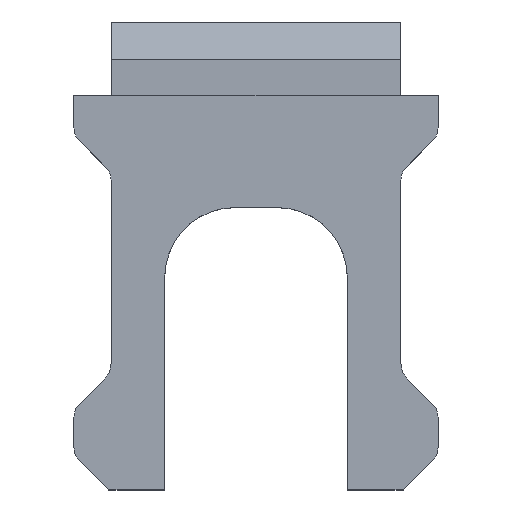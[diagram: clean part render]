
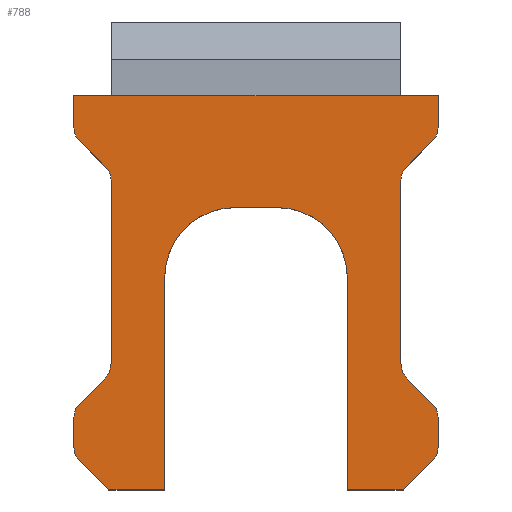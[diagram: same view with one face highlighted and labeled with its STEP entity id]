
A CAD part, top view. The second image highlights one B-rep face of the part: STEP entity #788.
In plain terms, the highlighted planar face has unit normal (0, 0, 1).
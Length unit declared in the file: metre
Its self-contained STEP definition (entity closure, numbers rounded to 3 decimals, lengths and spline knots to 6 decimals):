
#34=CIRCLE('',#824,0.0019);
#35=CIRCLE('',#827,0.0019);
#36=CIRCLE('',#832,0.0005);
#37=CIRCLE('',#835,0.0005);
#38=CIRCLE('',#838,0.0006);
#39=CIRCLE('',#841,0.0005);
#41=CIRCLE('',#845,0.0005);
#43=CIRCLE('',#851,0.0005);
#44=CIRCLE('',#854,0.0005);
#45=CIRCLE('',#857,0.0006);
#46=CIRCLE('',#860,0.0005);
#47=CIRCLE('',#863,0.0005);
#226=ORIENTED_EDGE('',*,*,#304,.T.);
#227=ORIENTED_EDGE('',*,*,#385,.F.);
#228=ORIENTED_EDGE('',*,*,#383,.T.);
#229=ORIENTED_EDGE('',*,*,#381,.F.);
#230=ORIENTED_EDGE('',*,*,#379,.T.);
#231=ORIENTED_EDGE('',*,*,#377,.F.);
#232=ORIENTED_EDGE('',*,*,#375,.T.);
#233=ORIENTED_EDGE('',*,*,#368,.T.);
#234=ORIENTED_EDGE('',*,*,#366,.T.);
#235=ORIENTED_EDGE('',*,*,#364,.F.);
#236=ORIENTED_EDGE('',*,*,#362,.T.);
#237=ORIENTED_EDGE('',*,*,#359,.T.);
#238=ORIENTED_EDGE('',*,*,#354,.F.);
#239=ORIENTED_EDGE('',*,*,#351,.F.);
#240=ORIENTED_EDGE('',*,*,#348,.F.);
#241=ORIENTED_EDGE('',*,*,#345,.T.);
#242=ORIENTED_EDGE('',*,*,#338,.F.);
#243=ORIENTED_EDGE('',*,*,#334,.T.);
#244=ORIENTED_EDGE('',*,*,#332,.F.);
#245=ORIENTED_EDGE('',*,*,#330,.F.);
#246=ORIENTED_EDGE('',*,*,#328,.F.);
#247=ORIENTED_EDGE('',*,*,#326,.F.);
#248=ORIENTED_EDGE('',*,*,#324,.F.);
#249=ORIENTED_EDGE('',*,*,#322,.T.);
#250=ORIENTED_EDGE('',*,*,#320,.T.);
#251=ORIENTED_EDGE('',*,*,#318,.T.);
#252=ORIENTED_EDGE('',*,*,#316,.F.);
#253=ORIENTED_EDGE('',*,*,#311,.T.);
#254=ORIENTED_EDGE('',*,*,#309,.F.);
#255=ORIENTED_EDGE('',*,*,#307,.F.);
#304=EDGE_CURVE('',#418,#419,#484,.T.);
#307=EDGE_CURVE('',#418,#420,#487,.T.);
#309=EDGE_CURVE('',#420,#421,#489,.T.);
#311=EDGE_CURVE('',#422,#421,#34,.T.);
#316=EDGE_CURVE('',#422,#425,#495,.T.);
#318=EDGE_CURVE('',#426,#425,#35,.T.);
#320=EDGE_CURVE('',#427,#426,#498,.T.);
#322=EDGE_CURVE('',#428,#427,#500,.T.);
#324=EDGE_CURVE('',#428,#429,#502,.T.);
#326=EDGE_CURVE('',#429,#430,#36,.T.);
#328=EDGE_CURVE('',#430,#431,#505,.T.);
#330=EDGE_CURVE('',#431,#432,#37,.T.);
#332=EDGE_CURVE('',#432,#433,#508,.T.);
#334=EDGE_CURVE('',#434,#433,#38,.T.);
#338=EDGE_CURVE('',#434,#437,#513,.T.);
#345=EDGE_CURVE('',#443,#437,#39,.T.);
#348=EDGE_CURVE('',#443,#445,#521,.T.);
#351=EDGE_CURVE('',#445,#447,#41,.T.);
#354=EDGE_CURVE('',#447,#449,#525,.T.);
#359=EDGE_CURVE('',#452,#449,#530,.T.);
#362=EDGE_CURVE('',#453,#452,#533,.T.);
#364=EDGE_CURVE('',#453,#454,#43,.T.);
#366=EDGE_CURVE('',#455,#454,#536,.T.);
#368=EDGE_CURVE('',#456,#455,#44,.T.);
#375=EDGE_CURVE('',#461,#456,#544,.T.);
#377=EDGE_CURVE('',#461,#462,#45,.T.);
#379=EDGE_CURVE('',#463,#462,#547,.T.);
#381=EDGE_CURVE('',#463,#464,#46,.T.);
#383=EDGE_CURVE('',#465,#464,#550,.T.);
#385=EDGE_CURVE('',#465,#419,#47,.T.);
#418=VERTEX_POINT('',#1153);
#419=VERTEX_POINT('',#1154);
#420=VERTEX_POINT('',#1159);
#421=VERTEX_POINT('',#1163);
#422=VERTEX_POINT('',#1167);
#425=VERTEX_POINT('',#1176);
#426=VERTEX_POINT('',#1180);
#427=VERTEX_POINT('',#1184);
#428=VERTEX_POINT('',#1188);
#429=VERTEX_POINT('',#1192);
#430=VERTEX_POINT('',#1196);
#431=VERTEX_POINT('',#1200);
#432=VERTEX_POINT('',#1204);
#433=VERTEX_POINT('',#1208);
#434=VERTEX_POINT('',#1212);
#437=VERTEX_POINT('',#1220);
#443=VERTEX_POINT('',#1234);
#445=VERTEX_POINT('',#1240);
#447=VERTEX_POINT('',#1246);
#449=VERTEX_POINT('',#1252);
#452=VERTEX_POINT('',#1261);
#453=VERTEX_POINT('',#1266);
#454=VERTEX_POINT('',#1270);
#455=VERTEX_POINT('',#1274);
#456=VERTEX_POINT('',#1278);
#461=VERTEX_POINT('',#1291);
#462=VERTEX_POINT('',#1295);
#463=VERTEX_POINT('',#1299);
#464=VERTEX_POINT('',#1303);
#465=VERTEX_POINT('',#1307);
#484=LINE('',#1152,#574);
#487=LINE('',#1158,#577);
#489=LINE('',#1162,#579);
#495=LINE('',#1175,#585);
#498=LINE('',#1183,#588);
#500=LINE('',#1187,#590);
#502=LINE('',#1191,#592);
#505=LINE('',#1199,#595);
#508=LINE('',#1207,#598);
#513=LINE('',#1219,#603);
#521=LINE('',#1239,#611);
#525=LINE('',#1251,#615);
#530=LINE('',#1260,#620);
#533=LINE('',#1265,#623);
#536=LINE('',#1273,#626);
#544=LINE('',#1290,#634);
#547=LINE('',#1298,#637);
#550=LINE('',#1306,#640);
#574=VECTOR('',#919,1.);
#577=VECTOR('',#924,1.);
#579=VECTOR('',#928,1.);
#585=VECTOR('',#940,1.);
#588=VECTOR('',#949,1.);
#590=VECTOR('',#953,1.);
#592=VECTOR('',#957,1.);
#595=VECTOR('',#966,1.);
#598=VECTOR('',#975,1.);
#603=VECTOR('',#986,1.);
#611=VECTOR('',#1002,1.);
#615=VECTOR('',#1014,1.);
#620=VECTOR('',#1021,1.);
#623=VECTOR('',#1026,1.);
#626=VECTOR('',#1035,1.);
#634=VECTOR('',#1049,1.);
#637=VECTOR('',#1058,1.);
#640=VECTOR('',#1067,1.);
#680=EDGE_LOOP('',(#226,#227,#228,#229,#230,#231,#232,#233,#234,#235,#236,
#237,#238,#239,#240,#241,#242,#243,#244,#245,#246,#247,#248,#249,#250,#251,
#252,#253,#254,#255));
#720=FACE_BOUND('',#680,.T.);
#748=PLANE('',#865);
#788=ADVANCED_FACE('',(#720),#748,.F.);
#824=AXIS2_PLACEMENT_3D('',#1166,#932,#933);
#827=AXIS2_PLACEMENT_3D('',#1179,#944,#945);
#832=AXIS2_PLACEMENT_3D('',#1195,#961,#962);
#835=AXIS2_PLACEMENT_3D('',#1203,#970,#971);
#838=AXIS2_PLACEMENT_3D('',#1211,#979,#980);
#841=AXIS2_PLACEMENT_3D('',#1233,#995,#996);
#845=AXIS2_PLACEMENT_3D('',#1245,#1007,#1008);
#851=AXIS2_PLACEMENT_3D('',#1269,#1030,#1031);
#854=AXIS2_PLACEMENT_3D('',#1277,#1039,#1040);
#857=AXIS2_PLACEMENT_3D('',#1294,#1053,#1054);
#860=AXIS2_PLACEMENT_3D('',#1302,#1062,#1063);
#863=AXIS2_PLACEMENT_3D('',#1310,#1071,#1072);
#865=AXIS2_PLACEMENT_3D('',#1312,#1075,#1076);
#919=DIRECTION('',(0.707,0.707,0.));
#924=DIRECTION('',(-1.,0.,0.));
#928=DIRECTION('',(0.,1.,0.));
#932=DIRECTION('',(0.,0.,-1.));
#933=DIRECTION('',(-1.,0.,0.));
#940=DIRECTION('',(-1.,0.,0.));
#944=DIRECTION('',(0.,0.,-1.));
#945=DIRECTION('',(-1.,0.,0.));
#949=DIRECTION('',(0.,1.,0.));
#953=DIRECTION('',(1.,0.,0.));
#957=DIRECTION('',(-0.707,0.707,0.));
#961=DIRECTION('',(0.,0.,-1.));
#962=DIRECTION('',(-1.,0.,0.));
#966=DIRECTION('',(0.,1.,0.));
#970=DIRECTION('',(0.,0.,-1.));
#971=DIRECTION('',(-1.,0.,0.));
#975=DIRECTION('',(0.707,0.707,0.));
#979=DIRECTION('',(0.,0.,-1.));
#980=DIRECTION('',(-1.,0.,0.));
#986=DIRECTION('',(0.,1.,0.));
#995=DIRECTION('',(0.,0.,-1.));
#996=DIRECTION('',(-1.,0.,0.));
#1002=DIRECTION('',(-0.707,0.707,0.));
#1007=DIRECTION('',(0.,0.,-1.));
#1008=DIRECTION('',(-1.,0.,0.));
#1014=DIRECTION('',(0.,1.,0.));
#1021=DIRECTION('',(-1.,0.,0.));
#1026=DIRECTION('',(0.,1.,0.));
#1030=DIRECTION('',(0.,0.,-1.));
#1031=DIRECTION('',(-1.,0.,0.));
#1035=DIRECTION('',(0.707,0.707,0.));
#1039=DIRECTION('',(0.,0.,-1.));
#1040=DIRECTION('',(-1.,0.,0.));
#1049=DIRECTION('',(0.,1.,0.));
#1053=DIRECTION('',(0.,0.,1.));
#1054=DIRECTION('',(-1.,0.,0.));
#1058=DIRECTION('',(-0.707,0.707,0.));
#1062=DIRECTION('',(0.,0.,-1.));
#1063=DIRECTION('',(-1.,0.,0.));
#1067=DIRECTION('',(0.,1.,0.));
#1071=DIRECTION('',(0.,0.,-1.));
#1072=DIRECTION('',(-1.,0.,0.));
#1075=DIRECTION('',(0.,0.,-1.));
#1076=DIRECTION('',(1.,0.,0.));
#1152=CARTESIAN_POINT('',(0.207103,0.023147,0.00625));
#1153=CARTESIAN_POINT('',(0.206706,0.02275,0.00625));
#1154=CARTESIAN_POINT('',(0.207501,0.023545,0.00625));
#1158=CARTESIAN_POINT('',(0.206691,0.02275,0.00625));
#1159=CARTESIAN_POINT('',(0.205206,0.02275,0.00625));
#1162=CARTESIAN_POINT('',(0.205206,0.0256,0.00625));
#1163=CARTESIAN_POINT('',(0.205206,0.02845,0.00625));
#1166=CARTESIAN_POINT('',(0.203306,0.02845,0.00625));
#1167=CARTESIAN_POINT('',(0.203306,0.03035,0.00625));
#1175=CARTESIAN_POINT('',(0.203027,0.03035,0.00625));
#1176=CARTESIAN_POINT('',(0.202189,0.03035,0.00625));
#1179=CARTESIAN_POINT('',(0.202189,0.02845,0.00625));
#1180=CARTESIAN_POINT('',(0.200289,0.02845,0.00625));
#1183=CARTESIAN_POINT('',(0.200289,0.0256,0.00625));
#1184=CARTESIAN_POINT('',(0.200289,0.02275,0.00625));
#1187=CARTESIAN_POINT('',(0.199553,0.02275,0.00625));
#1188=CARTESIAN_POINT('',(0.198789,0.02275,0.00625));
#1191=CARTESIAN_POINT('',(0.198391,0.023147,0.00625));
#1192=CARTESIAN_POINT('',(0.197994,0.023545,0.00625));
#1195=CARTESIAN_POINT('',(0.198347,0.023899,0.00625));
#1196=CARTESIAN_POINT('',(0.197847,0.023899,0.00625));
#1199=CARTESIAN_POINT('',(0.197847,0.0243,0.00625));
#1200=CARTESIAN_POINT('',(0.197847,0.024701,0.00625));
#1203=CARTESIAN_POINT('',(0.198347,0.024701,0.00625));
#1204=CARTESIAN_POINT('',(0.197994,0.025055,0.00625));
#1207=CARTESIAN_POINT('',(0.198333,0.025394,0.00625));
#1208=CARTESIAN_POINT('',(0.198672,0.025733,0.00625));
#1211=CARTESIAN_POINT('',(0.198247,0.026157,0.00625));
#1212=CARTESIAN_POINT('',(0.198847,0.026157,0.00625));
#1219=CARTESIAN_POINT('',(0.198847,0.02645,0.00625));
#1220=CARTESIAN_POINT('',(0.198847,0.031084,0.00625));
#1233=CARTESIAN_POINT('',(0.198347,0.031084,0.00625));
#1234=CARTESIAN_POINT('',(0.198701,0.031438,0.00625));
#1239=CARTESIAN_POINT('',(0.198347,0.031791,0.00625));
#1240=CARTESIAN_POINT('',(0.197994,0.032145,0.00625));
#1245=CARTESIAN_POINT('',(0.198347,0.032499,0.00625));
#1246=CARTESIAN_POINT('',(0.197847,0.032499,0.00625));
#1251=CARTESIAN_POINT('',(0.197847,0.032924,0.00625));
#1252=CARTESIAN_POINT('',(0.197847,0.03335,0.00625));
#1260=CARTESIAN_POINT('',(0.202747,0.03335,0.00625));
#1261=CARTESIAN_POINT('',(0.207647,0.03335,0.00625));
#1265=CARTESIAN_POINT('',(0.207647,0.032924,0.00625));
#1266=CARTESIAN_POINT('',(0.207647,0.032499,0.00625));
#1269=CARTESIAN_POINT('',(0.207147,0.032499,0.00625));
#1270=CARTESIAN_POINT('',(0.207501,0.032145,0.00625));
#1273=CARTESIAN_POINT('',(0.207147,0.031791,0.00625));
#1274=CARTESIAN_POINT('',(0.206794,0.031438,0.00625));
#1277=CARTESIAN_POINT('',(0.207147,0.031084,0.00625));
#1278=CARTESIAN_POINT('',(0.206647,0.031084,0.00625));
#1290=CARTESIAN_POINT('',(0.206647,0.028914,0.00625));
#1291=CARTESIAN_POINT('',(0.206647,0.026157,0.00625));
#1294=CARTESIAN_POINT('',(0.207247,0.026157,0.00625));
#1295=CARTESIAN_POINT('',(0.206823,0.025733,0.00625));
#1298=CARTESIAN_POINT('',(0.207162,0.025394,0.00625));
#1299=CARTESIAN_POINT('',(0.207501,0.025055,0.00625));
#1302=CARTESIAN_POINT('',(0.207147,0.024701,0.00625));
#1303=CARTESIAN_POINT('',(0.207647,0.024701,0.00625));
#1306=CARTESIAN_POINT('',(0.207647,0.0243,0.00625));
#1307=CARTESIAN_POINT('',(0.207647,0.023899,0.00625));
#1310=CARTESIAN_POINT('',(0.207147,0.023899,0.00625));
#1312=CARTESIAN_POINT('',(0.202747,0.03015,0.00625));
